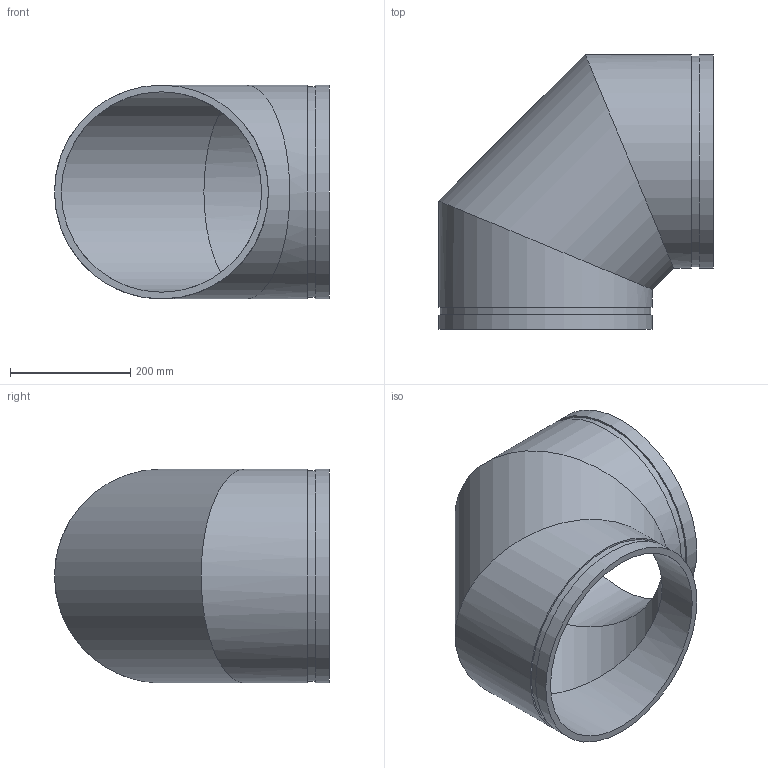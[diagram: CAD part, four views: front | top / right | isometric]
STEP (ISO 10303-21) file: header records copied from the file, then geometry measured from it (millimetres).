
FILE_DESCRIPTION(/* description */ ('VIC 90 DEG ELBOW FABRICATED No 10 SWS (OGS)','CAx-IF Rec.Pracs.---Representation and Presentation of Product Manufacturing Information (PMI)---4.0---2014-10-13'),/* implementation_level */ '2;1');
FILE_NAME(/* name */ 'C:\Users\kkamble\AppData\Roaming\Autodesk\ApplicationPlugins\Back Up\Victaulic_IPS_Elbow 90 Deg_No 10 SWS (OGS)\Victaulic_IPS_Elbow 90 Deg_No 10 SWS (OGS)_14 (350).stp',/* time_stamp */ '2020-09-16T22:18:09+06:00',/* author */ ('cgray'),/* organization */ ('Victaulic'),/* preprocessor_version */ 'ST-DEVELOPER v17.2',/* originating_system */ 'Autodesk Inventor 2019',/* authorisation */ '');
FILE_SCHEMA (('AP242_MANAGED_MODEL_BASED_3D_ENGINEERING_MIM_LF { 1 0 10303 442 1 1 4 }'));
Length unit declared in the file: inch
Products named in the file (1): 10 SWS-14.0
Bounding box: 457.2 x 457.2 x 355.6 mm (x, y, z)
Volume: 5651525 mm3; surface area: 1068333.8 mm2
Topology: 1 solids, 1 shells, 16 faces, 38 edges, 28 vertices
Faces by surface type: cylinder 10, plane 6
Full cylindrical faces by diameter (mm): 333.4 x3, 350.037 x2, 355.6 x5
Entity records: 646 total; most frequent: DIRECTION 126, CARTESIAN_POINT 100, ORIENTED_EDGE 76, AXIS2_PLACEMENT_3D 58, EDGE_CURVE 38, VERTEX_POINT 28, EDGE_LOOP 22, STYLED_ITEM 18
